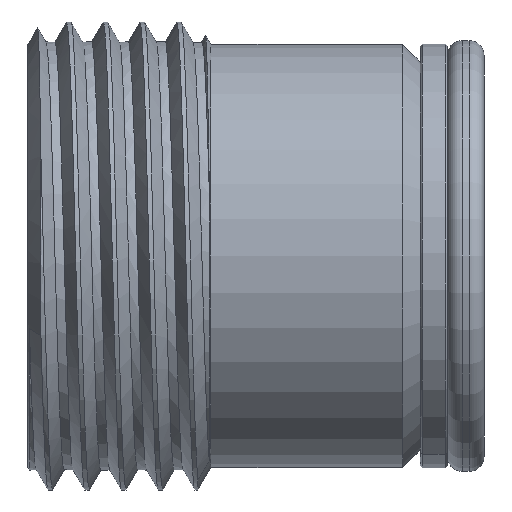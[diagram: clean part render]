
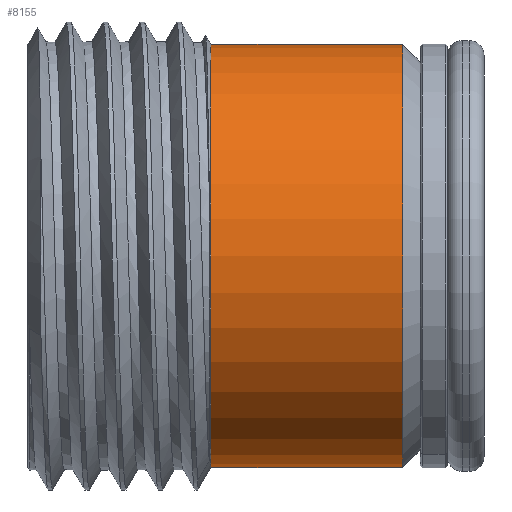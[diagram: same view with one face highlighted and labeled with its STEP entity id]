
A CAD part, front view. The second image highlights one B-rep face of the part: STEP entity #8155.
In plain terms, the highlighted cylindrical face has radius 12.192 mm (diameter 24.384 mm), a partial arc.
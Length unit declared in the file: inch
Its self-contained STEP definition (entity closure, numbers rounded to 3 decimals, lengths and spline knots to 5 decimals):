
#44 = EDGE_CURVE ( 'NONE', #3226, #3847, #5365, .T. ) ;
#634 = LINE ( 'NONE', #6312, #1198 ) ;
#933 = AXIS2_PLACEMENT_3D ( 'NONE', #7229, #3885, #2689 ) ;
#1157 = CARTESIAN_POINT ( 'NONE',  ( 26.20274, 34.39292, 50.6233 ) ) ;
#1198 = VECTOR ( 'NONE', #7072, 39.37008 ) ;
#1632 = CYLINDRICAL_SURFACE ( 'NONE', #3274, 0.48 ) ;
#1714 = AXIS2_PLACEMENT_3D ( 'NONE', #7284, #4106, #7323 ) ;
#1740 = CIRCLE ( 'NONE', #933, 0.48 ) ;
#2393 = CARTESIAN_POINT ( 'NONE',  ( 26.61774, 34.39292, 51.1033 ) ) ;
#2689 = DIRECTION ( 'NONE',  ( 0., 0., 1. ) ) ;
#2737 = CARTESIAN_POINT ( 'NONE',  ( 26.20274, 34.39292, 50.1433 ) ) ;
#2761 = ORIENTED_EDGE ( 'NONE', *, *, #44, .T. ) ;
#2979 = DIRECTION ( 'NONE',  ( -1., 0., 0. ) ) ;
#3043 = ORIENTED_EDGE ( 'NONE', *, *, #4552, .F. ) ;
#3226 = VERTEX_POINT ( 'NONE', #3309 ) ;
#3274 = AXIS2_PLACEMENT_3D ( 'NONE', #1157, #2979, #8218 ) ;
#3309 = CARTESIAN_POINT ( 'NONE',  ( 27.05274, 34.39292, 50.1433 ) ) ;
#3399 = EDGE_CURVE ( 'NONE', #6657, #3694, #1740, .T. ) ;
#3694 = VERTEX_POINT ( 'NONE', #2393 ) ;
#3701 = EDGE_CURVE ( 'NONE', #3847, #3694, #634, .T. ) ;
#3847 = VERTEX_POINT ( 'NONE', #4447 ) ;
#3885 = DIRECTION ( 'NONE',  ( -1., 0., 0. ) ) ;
#4106 = DIRECTION ( 'NONE',  ( -1., 0., 0. ) ) ;
#4181 = CARTESIAN_POINT ( 'NONE',  ( 26.61774, 34.39292, 50.1433 ) ) ;
#4447 = CARTESIAN_POINT ( 'NONE',  ( 27.05274, 34.39292, 51.1033 ) ) ;
#4552 = EDGE_CURVE ( 'NONE', #3226, #6657, #5974, .T. ) ;
#5017 = ORIENTED_EDGE ( 'NONE', *, *, #3701, .T. ) ;
#5331 = DIRECTION ( 'NONE',  ( -1., 0., 0. ) ) ;
#5365 = CIRCLE ( 'NONE', #1714, 0.48 ) ;
#5652 = FACE_OUTER_BOUND ( 'NONE', #6071, .T. ) ;
#5974 = LINE ( 'NONE', #2737, #6351 ) ;
#6071 = EDGE_LOOP ( 'NONE', ( #3043, #2761, #5017, #8070 ) ) ;
#6312 = CARTESIAN_POINT ( 'NONE',  ( 26.20274, 34.39292, 51.1033 ) ) ;
#6351 = VECTOR ( 'NONE', #5331, 39.37008 ) ;
#6657 = VERTEX_POINT ( 'NONE', #4181 ) ;
#7072 = DIRECTION ( 'NONE',  ( -1., 0., 0. ) ) ;
#7229 = CARTESIAN_POINT ( 'NONE',  ( 26.61774, 34.39292, 50.6233 ) ) ;
#7284 = CARTESIAN_POINT ( 'NONE',  ( 27.05274, 34.39292, 50.6233 ) ) ;
#7323 = DIRECTION ( 'NONE',  ( 0., 0., 1. ) ) ;
#8070 = ORIENTED_EDGE ( 'NONE', *, *, #3399, .F. ) ;
#8155 = ADVANCED_FACE ( 'NONE', ( #5652 ), #1632, .T. ) ;
#8218 = DIRECTION ( 'NONE',  ( 0., 0., 1. ) ) ;
